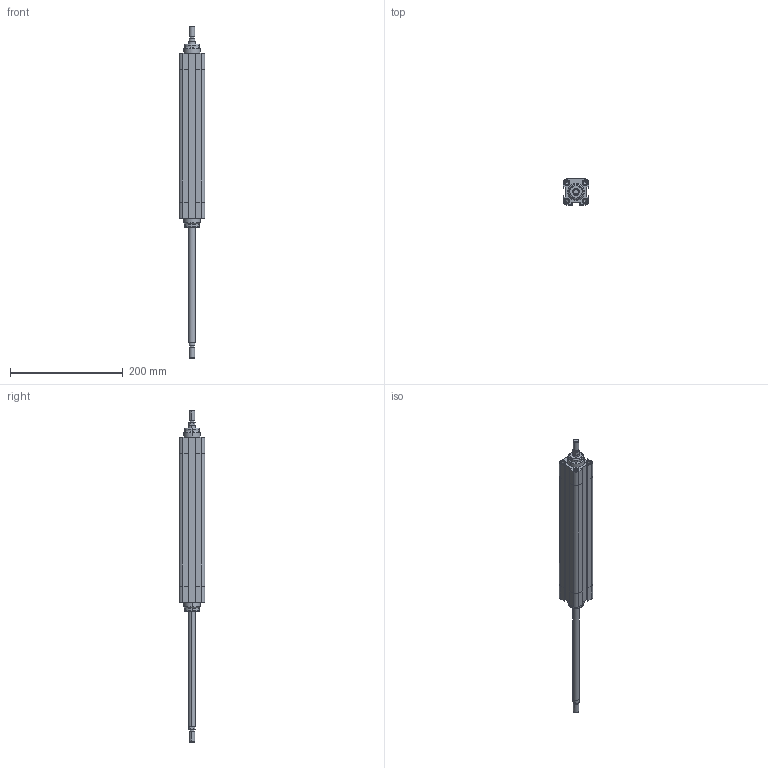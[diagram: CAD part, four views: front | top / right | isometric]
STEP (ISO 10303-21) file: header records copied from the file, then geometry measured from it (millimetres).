
FILE_DESCRIPTION((''),'2;1');
FILE_NAME('F:\Lib-3d\1380\CIL\1380_32_0200_02.stp','2004-01-07T15:59:18',('maffial1'),(''),'Autodesk Inventor 8','Autodesk Inventor 8','');
FILE_SCHEMA(('AUTOMOTIVE_DESIGN { 1 0 10303 214 1 1 1 1 }'));
Length unit declared in the file: millimetre
Products named in the file (3): 1380_32_0200_02; CPP04_32_200; CPP03_32_200
Assembly tree (2 placements, depth 2):
  1380_32_0200_02
    CPP04_32_200
    CPP03_32_200
Bounding box: 46 x 46 x 590 mm (x, y, z)
Volume: 590583.8 mm3; surface area: 111361.8 mm2
Topology: 2 solids, 2 shells, 236 faces, 564 edges, 356 vertices
Faces by surface type: plane 80, cylinder 66, bspline 62, cone 24, torus 4
Entity records: 7513 total; most frequent: CARTESIAN_POINT 2031, DIRECTION 1154, ORIENTED_EDGE 1096, EDGE_CURVE 548, AXIS2_PLACEMENT_3D 427, VERTEX_POINT 356, VECTOR 300, LINE 300
